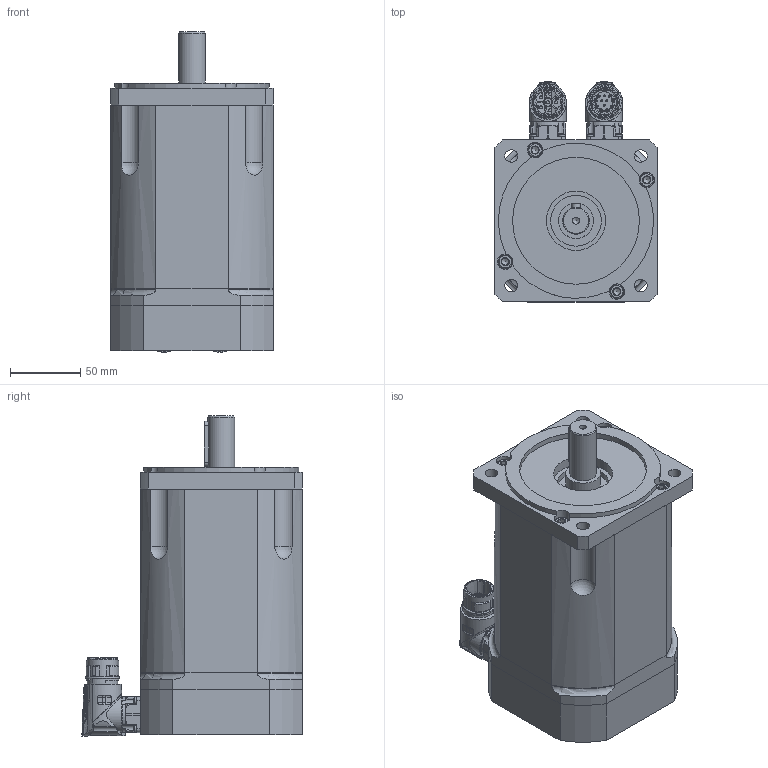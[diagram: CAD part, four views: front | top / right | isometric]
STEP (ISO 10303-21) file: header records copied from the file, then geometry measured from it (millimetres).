
FILE_DESCRIPTION(/* description */ (''),/* implementation_level */ '2;1');
FILE_NAME(/* name */ 'C:\Users\Public\Documents\Autodesk\Inventor LT 2014\Workspace\Motori Sito WEB\TG_4\STEP_DSM5_4x\DSM5_42_x097.stp',/* time_stamp */ '2021-03-31T14:13:50+02:00',/* author */ ('marcor'),/* organization */ (''),/* preprocessor_version */ 'ST-DEVELOPER v15.2',/* originating_system */ 'Autodesk Inventor LT ',/* authorisation */ '');
FILE_SCHEMA (('AUTOMOTIVE_DESIGN { 1 0 10303 214 3 1 1 }'));
Products named in the file (1): DSM5_42_x097
Bounding box: 115 x 156.5 x 227.41 mm (x, y, z)
Volume: 2275137.3 mm3; surface area: 213019.3 mm2
Topology: 16 solids, 26 shells, 1467 faces, 3841 edges, 2557 vertices
Faces by surface type: plane 522, cylinder 438, cone 287, bspline 113, torus 75, sphere 32
Full cylindrical faces by diameter (mm): 1.2 x12, 2.224 x8, 2.233 x6, 2.5 x8, 2.88 x8, 3.26 x8, 4.134 x4, 4.5 x2, 4.8 x8, 4.917 x9, 5 x4, 5.5 x7, 5.9 x2, 6 x8, 6.5 x8, 8.5 x4, 9 x4, 10 x12, 11 x8, 15.2 x1, 17.4 x3, 18 x1, 19 x1, 19.8 x1, 21.15 x4, 21.6 x1, 21.653 x2, 23.8 x1, 24.3 x2, 24.9 x1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
Entity records: 52212 total; most frequent: CARTESIAN_POINT 17847, ORIENTED_EDGE 6830, DIRECTION 6361, EDGE_CURVE 3415, AXIS2_PLACEMENT_3D 2585, VERTEX_POINT 2445, EDGE_LOOP 1970, ADVANCED_FACE 1467
